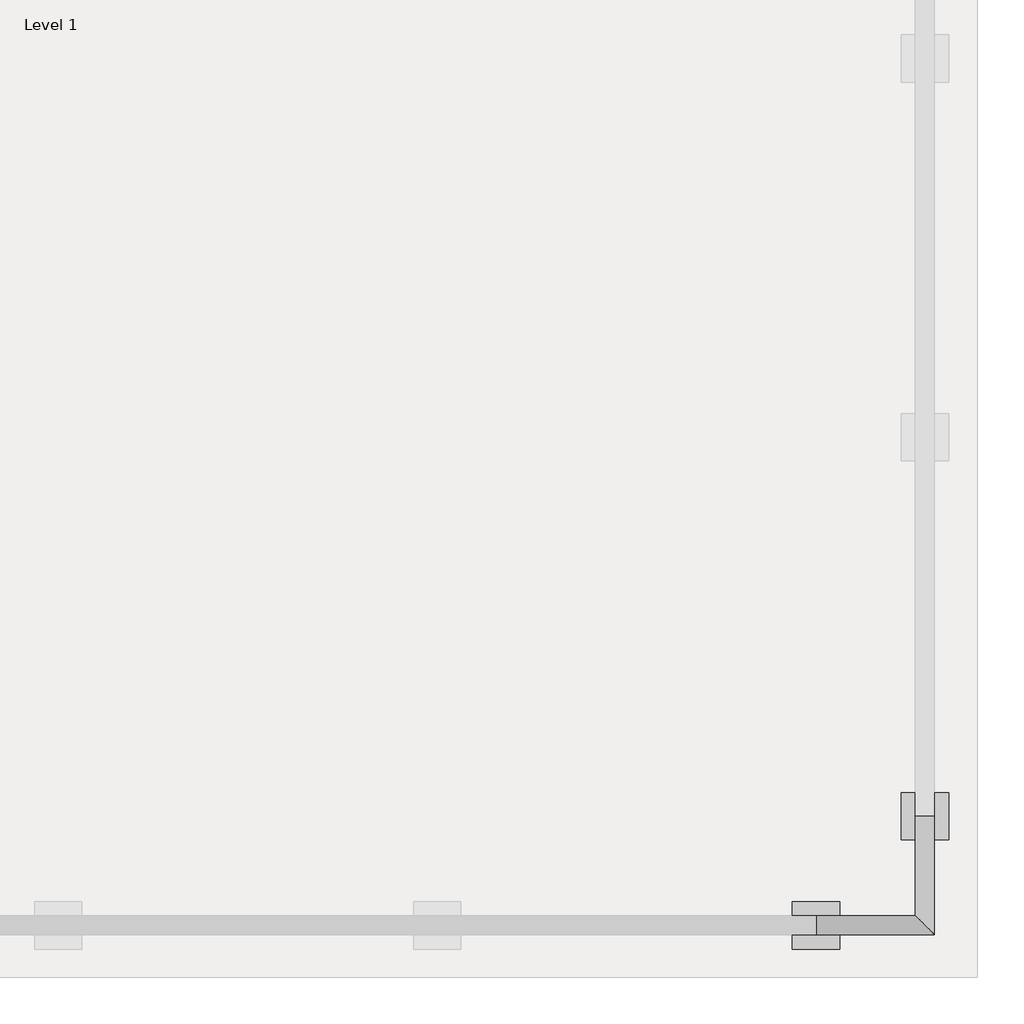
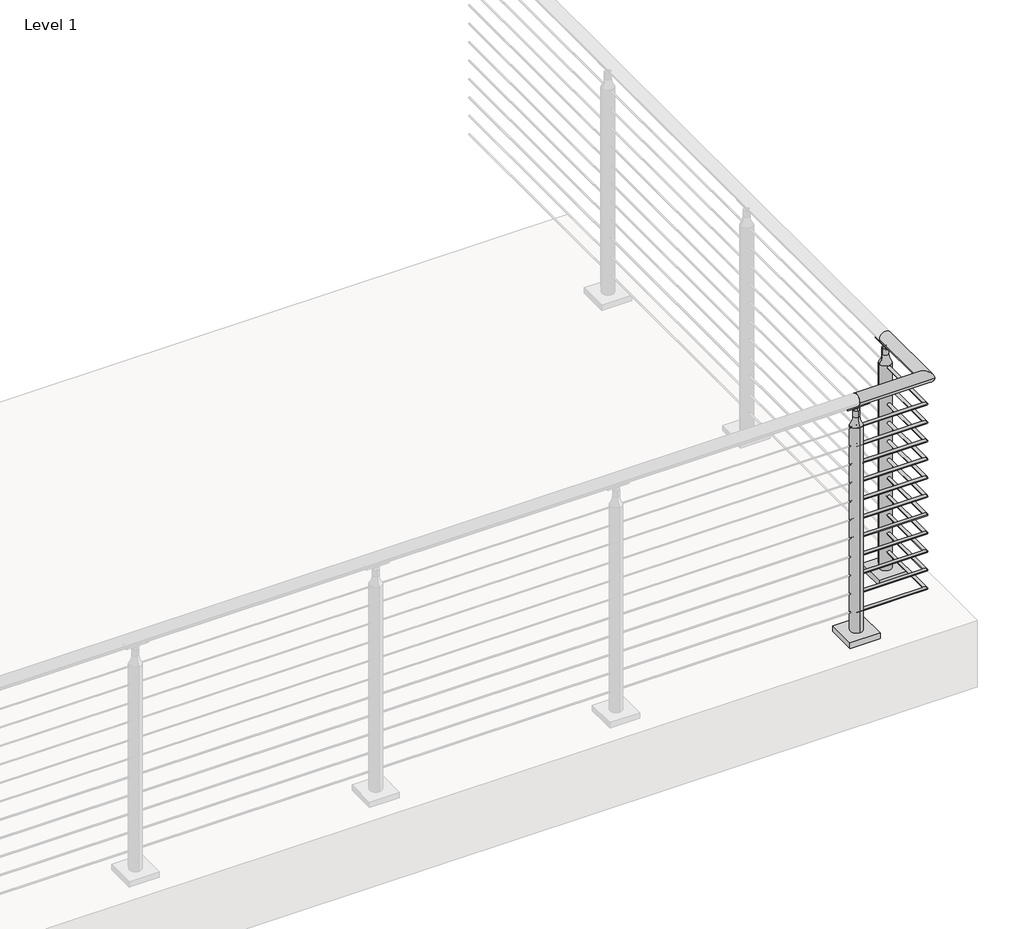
# One storey, part 11 of 21: 1 railing.
"""IFC4 building model written with IfcOpenShell, lengths in millimetres."""

from ifc_helpers import new_model, si_unit, point, frame, frame_2d, origin, origin_with_axes, place, context, project, spatial, polyline, circle_curve, ellipse_curve, trimmed, segment, composite_curve, outline, extrude, element, save
from ifc_brep_helpers import plane_surface, cylinder_surface, revolved_surface, advanced_brep

model = new_model("IFC4")

# Units and contexts
model_context = context("Model", 3, world=origin())
ifc_project = project(units=[si_unit("LENGTHUNIT", "METRE", prefix="MILLI")], contexts=[model_context])

# Site, building, storey
site = spatial("IfcSite", under=ifc_project)
building = spatial("IfcBuilding", under=site)
storey = spatial("IfcBuildingStorey", under=building, Name="Level 1", Elevation=0.0)

# Railing
placement = place(None, origin())
element("IfcRailing", 1, ObjectType="VIVA-CIRCA-Cable-Floor Mount-Corner", at=placement, inside=storey, context=model_context, shape_type="SolidModel", body=[
    advanced_brep(
    [(19311.7855247, -57070.1334719, 1054.1), (19311.7855247, -57019.3334719, 1054.1), (19629.2855247, -57070.1334719, 1054.1), (19578.4855247, -57019.3334719, 1054.1), (19629.2855247, -56752.6334719, 1054.1), (19578.4855247, -56752.6334719, 1054.1)],
    [
        (0, 1, circle_curve(frame((19311.7855247, -57044.7334719, 1054.1), z_axis=(-1.0, 0.0, 0.0), x_axis=(0.0, 1.0, 0.0)), 25.4)),
        (1, 0, circle_curve(frame((19311.7855247, -57044.7334719, 1054.1), z_axis=(-1.0, 0.0, 0.0), x_axis=(0.0, 1.0, 0.0)), 25.4)),
        (0, 2),
        (2, 3, ellipse_curve(frame((19603.8855247, -57044.7334719, 1054.1), z_axis=(-0.7071067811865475, -0.7071067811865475, 0.0), x_axis=(-0.7071067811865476, 0.7071067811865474, 0.0)), 35.9210245, 25.4)),
        (3, 1),
        (3, 2, ellipse_curve(frame((19603.8855247, -57044.7334719, 1054.1), z_axis=(-0.7071067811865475, -0.7071067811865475, 0.0), x_axis=(-0.7071067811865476, 0.7071067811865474, 0.0)), 35.9210245, 25.4)),
        (4, 5, circle_curve(frame((19603.8855247, -56752.6334719, 1054.1), z_axis=(0.0, 1.0, 0.0), x_axis=(-1.0, 0.0, 0.0)), 25.4)),
        (5, 4, circle_curve(frame((19603.8855247, -56752.6334719, 1054.1), z_axis=(0.0, 1.0, 0.0), x_axis=(-1.0, 0.0, 0.0)), 25.4)),
        (2, 4),
        (5, 3),
    ],
    [
        plane_surface(frame((19311.7855247, -57044.7334719, 1079.5), z_axis=(-1.0, 0.0, 0.0), x_axis=(0.0, 1.0, 0.0))),
        cylinder_surface(frame((19311.7855247, -57044.7334719, 1054.1), z_axis=(-1.0, 0.0, 0.0), x_axis=(0.0, 1.0, 0.0)), 25.4),
        plane_surface(frame((19603.8855247, -56752.6334719, 1079.5), z_axis=(0.0, 1.0, 0.0), x_axis=(0.0, 0.0, 1.0))),
        cylinder_surface(frame((19603.8855247, -57044.7334719, 1054.1), z_axis=(0.0, -1.0, 0.0), x_axis=(-1.0, 0.0, 0.0)), 25.4),
    ],
    [
        (0, [[1, 2]]),
        (1, [[-1, 3, 4, 5]]),
        (1, [[-2, -5, 6, -3]]),
        (2, [[7, 8]]),
        (3, [[-4, 9, -8, 10]]),
        (3, [[-6, -10, -7, -9]]),
    ],
),
    advanced_brep(
    [(19311.7855247, -57038.3834719, 933.45), (19311.7855247, -57051.0834719, 933.45), (19597.5355247, -57038.3834719, 933.45), (19610.2355247, -57051.0834719, 933.45), (19597.5355247, -56752.6334719, 933.45), (19610.2355247, -56752.6334719, 933.45)],
    [
        (0, 1, circle_curve(frame((19311.7855247, -57044.7334719, 933.45), z_axis=(-1.0, 0.0, 0.0), x_axis=(0.0, -1.0, 0.0)), 6.35)),
        (1, 0, circle_curve(frame((19311.7855247, -57044.7334719, 933.45), z_axis=(-1.0, 0.0, 0.0), x_axis=(0.0, -1.0, 0.0)), 6.35)),
        (0, 2),
        (2, 3, ellipse_curve(frame((19603.8855247, -57044.7334719, 933.45), z_axis=(-0.7071067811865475, -0.7071067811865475, 0.0), x_axis=(-0.7071067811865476, 0.7071067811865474, 0.0)), 8.9802561, 6.35)),
        (3, 1),
        (3, 2, ellipse_curve(frame((19603.8855247, -57044.7334719, 933.45), z_axis=(-0.7071067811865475, -0.7071067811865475, 0.0), x_axis=(-0.7071067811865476, 0.7071067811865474, 0.0)), 8.9802561, 6.35)),
        (4, 5, circle_curve(frame((19603.8855247, -56752.6334719, 933.45), z_axis=(0.0, 1.0, 0.0), x_axis=(1.0, 0.0, 0.0)), 6.35)),
        (5, 4, circle_curve(frame((19603.8855247, -56752.6334719, 933.45), z_axis=(0.0, 1.0, 0.0), x_axis=(1.0, 0.0, 0.0)), 6.35)),
        (2, 4),
        (5, 3),
    ],
    [
        plane_surface(frame((19311.7855247, -57044.7334719, 939.8), z_axis=(-1.0, 0.0, 0.0), x_axis=(0.0, 1.0, 0.0))),
        cylinder_surface(frame((19311.7855247, -57044.7334719, 933.45), z_axis=(-1.0, 0.0, 0.0), x_axis=(0.0, -1.0, 0.0)), 6.35),
        plane_surface(frame((19603.8855247, -56752.6334719, 939.8), z_axis=(0.0, 1.0, 0.0), x_axis=(0.0, 0.0, 1.0))),
        cylinder_surface(frame((19603.8855247, -57044.7334719, 933.45), z_axis=(0.0, -1.0, 0.0), x_axis=(1.0, 0.0, 0.0)), 6.35),
    ],
    [
        (0, [[1, 2]]),
        (1, [[-1, 3, 4, 5]]),
        (1, [[-2, -5, 6, -3]]),
        (2, [[7, 8]]),
        (3, [[-4, 9, -8, 10]]),
        (3, [[-6, -10, -7, -9]]),
    ],
),
    advanced_brep(
    [(19311.7855247, -57038.3834719, 850.9), (19311.7855247, -57051.0834719, 850.9), (19597.5355247, -57038.3834719, 850.9), (19610.2355247, -57051.0834719, 850.9), (19597.5355247, -56752.6334719, 850.9), (19610.2355247, -56752.6334719, 850.9)],
    [
        (0, 1, circle_curve(frame((19311.7855247, -57044.7334719, 850.9), z_axis=(-1.0, 0.0, 0.0), x_axis=(0.0, -1.0, 0.0)), 6.35)),
        (1, 0, circle_curve(frame((19311.7855247, -57044.7334719, 850.9), z_axis=(-1.0, 0.0, 0.0), x_axis=(0.0, -1.0, 0.0)), 6.35)),
        (0, 2),
        (2, 3, ellipse_curve(frame((19603.8855247, -57044.7334719, 850.9), z_axis=(-0.7071067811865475, -0.7071067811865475, 0.0), x_axis=(-0.7071067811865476, 0.7071067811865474, 0.0)), 8.9802561, 6.35)),
        (3, 1),
        (3, 2, ellipse_curve(frame((19603.8855247, -57044.7334719, 850.9), z_axis=(-0.7071067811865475, -0.7071067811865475, 0.0), x_axis=(-0.7071067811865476, 0.7071067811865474, 0.0)), 8.9802561, 6.35)),
        (4, 5, circle_curve(frame((19603.8855247, -56752.6334719, 850.9), z_axis=(0.0, 1.0, 0.0), x_axis=(1.0, 0.0, 0.0)), 6.35)),
        (5, 4, circle_curve(frame((19603.8855247, -56752.6334719, 850.9), z_axis=(0.0, 1.0, 0.0), x_axis=(1.0, 0.0, 0.0)), 6.35)),
        (2, 4),
        (5, 3),
    ],
    [
        plane_surface(frame((19311.7855247, -57044.7334719, 857.25), z_axis=(-1.0, 0.0, 0.0), x_axis=(0.0, 1.0, 0.0))),
        cylinder_surface(frame((19311.7855247, -57044.7334719, 850.9), z_axis=(-1.0, 0.0, 0.0), x_axis=(0.0, -1.0, 0.0)), 6.35),
        plane_surface(frame((19603.8855247, -56752.6334719, 857.25), z_axis=(0.0, 1.0, 0.0), x_axis=(0.0, 0.0, 1.0))),
        cylinder_surface(frame((19603.8855247, -57044.7334719, 850.9), z_axis=(0.0, -1.0, 0.0), x_axis=(1.0, 0.0, 0.0)), 6.35),
    ],
    [
        (0, [[1, 2]]),
        (1, [[-1, 3, 4, 5]]),
        (1, [[-2, -5, 6, -3]]),
        (2, [[7, 8]]),
        (3, [[-4, 9, -8, 10]]),
        (3, [[-6, -10, -7, -9]]),
    ],
),
    advanced_brep(
    [(19311.7855247, -57038.3834719, 768.35), (19311.7855247, -57051.0834719, 768.35), (19597.5355247, -57038.3834719, 768.35), (19610.2355247, -57051.0834719, 768.35), (19597.5355247, -56752.6334719, 768.35), (19610.2355247, -56752.6334719, 768.35)],
    [
        (0, 1, circle_curve(frame((19311.7855247, -57044.7334719, 768.35), z_axis=(-1.0, 0.0, 0.0), x_axis=(0.0, -1.0, 0.0)), 6.35)),
        (1, 0, circle_curve(frame((19311.7855247, -57044.7334719, 768.35), z_axis=(-1.0, 0.0, 0.0), x_axis=(0.0, -1.0, 0.0)), 6.35)),
        (0, 2),
        (2, 3, ellipse_curve(frame((19603.8855247, -57044.7334719, 768.35), z_axis=(-0.7071067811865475, -0.7071067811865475, 0.0), x_axis=(-0.7071067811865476, 0.7071067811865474, 0.0)), 8.9802561, 6.35)),
        (3, 1),
        (3, 2, ellipse_curve(frame((19603.8855247, -57044.7334719, 768.35), z_axis=(-0.7071067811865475, -0.7071067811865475, 0.0), x_axis=(-0.7071067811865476, 0.7071067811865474, 0.0)), 8.9802561, 6.35)),
        (4, 5, circle_curve(frame((19603.8855247, -56752.6334719, 768.35), z_axis=(0.0, 1.0, 0.0), x_axis=(1.0, 0.0, 0.0)), 6.35)),
        (5, 4, circle_curve(frame((19603.8855247, -56752.6334719, 768.35), z_axis=(0.0, 1.0, 0.0), x_axis=(1.0, 0.0, 0.0)), 6.35)),
        (2, 4),
        (5, 3),
    ],
    [
        plane_surface(frame((19311.7855247, -57044.7334719, 774.7), z_axis=(-1.0, 0.0, 0.0), x_axis=(0.0, 1.0, 0.0))),
        cylinder_surface(frame((19311.7855247, -57044.7334719, 768.35), z_axis=(-1.0, 0.0, 0.0), x_axis=(0.0, -1.0, 0.0)), 6.35),
        plane_surface(frame((19603.8855247, -56752.6334719, 774.7), z_axis=(0.0, 1.0, 0.0), x_axis=(0.0, 0.0, 1.0))),
        cylinder_surface(frame((19603.8855247, -57044.7334719, 768.35), z_axis=(0.0, -1.0, 0.0), x_axis=(1.0, 0.0, 0.0)), 6.35),
    ],
    [
        (0, [[1, 2]]),
        (1, [[-1, 3, 4, 5]]),
        (1, [[-2, -5, 6, -3]]),
        (2, [[7, 8]]),
        (3, [[-4, 9, -8, 10]]),
        (3, [[-6, -10, -7, -9]]),
    ],
),
    advanced_brep(
    [(19311.7855247, -57038.3834719, 685.8), (19311.7855247, -57051.0834719, 685.8), (19597.5355247, -57038.3834719, 685.8), (19610.2355247, -57051.0834719, 685.8), (19597.5355247, -56752.6334719, 685.8), (19610.2355247, -56752.6334719, 685.8)],
    [
        (0, 1, circle_curve(frame((19311.7855247, -57044.7334719, 685.8), z_axis=(-1.0, 0.0, 0.0), x_axis=(0.0, -1.0, 0.0)), 6.35)),
        (1, 0, circle_curve(frame((19311.7855247, -57044.7334719, 685.8), z_axis=(-1.0, 0.0, 0.0), x_axis=(0.0, -1.0, 0.0)), 6.35)),
        (0, 2),
        (2, 3, ellipse_curve(frame((19603.8855247, -57044.7334719, 685.8), z_axis=(-0.7071067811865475, -0.7071067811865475, 0.0), x_axis=(-0.7071067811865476, 0.7071067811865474, 0.0)), 8.9802561, 6.35)),
        (3, 1),
        (3, 2, ellipse_curve(frame((19603.8855247, -57044.7334719, 685.8), z_axis=(-0.7071067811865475, -0.7071067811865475, 0.0), x_axis=(-0.7071067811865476, 0.7071067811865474, 0.0)), 8.9802561, 6.35)),
        (4, 5, circle_curve(frame((19603.8855247, -56752.6334719, 685.8), z_axis=(0.0, 1.0, 0.0), x_axis=(1.0, 0.0, 0.0)), 6.35)),
        (5, 4, circle_curve(frame((19603.8855247, -56752.6334719, 685.8), z_axis=(0.0, 1.0, 0.0), x_axis=(1.0, 0.0, 0.0)), 6.35)),
        (2, 4),
        (5, 3),
    ],
    [
        plane_surface(frame((19311.7855247, -57044.7334719, 692.15), z_axis=(-1.0, 0.0, 0.0), x_axis=(0.0, 1.0, 0.0))),
        cylinder_surface(frame((19311.7855247, -57044.7334719, 685.8), z_axis=(-1.0, 0.0, 0.0), x_axis=(0.0, -1.0, 0.0)), 6.35),
        plane_surface(frame((19603.8855247, -56752.6334719, 692.15), z_axis=(0.0, 1.0, 0.0), x_axis=(0.0, 0.0, 1.0))),
        cylinder_surface(frame((19603.8855247, -57044.7334719, 685.8), z_axis=(0.0, -1.0, 0.0), x_axis=(1.0, 0.0, 0.0)), 6.35),
    ],
    [
        (0, [[1, 2]]),
        (1, [[-1, 3, 4, 5]]),
        (1, [[-2, -5, 6, -3]]),
        (2, [[7, 8]]),
        (3, [[-4, 9, -8, 10]]),
        (3, [[-6, -10, -7, -9]]),
    ],
),
    advanced_brep(
    [(19311.7855247, -57038.3834719, 603.25), (19311.7855247, -57051.0834719, 603.25), (19597.5355247, -57038.3834719, 603.25), (19610.2355247, -57051.0834719, 603.25), (19597.5355247, -56752.6334719, 603.25), (19610.2355247, -56752.6334719, 603.25)],
    [
        (0, 1, circle_curve(frame((19311.7855247, -57044.7334719, 603.25), z_axis=(-1.0, 0.0, 0.0), x_axis=(0.0, -1.0, 0.0)), 6.35)),
        (1, 0, circle_curve(frame((19311.7855247, -57044.7334719, 603.25), z_axis=(-1.0, 0.0, 0.0), x_axis=(0.0, -1.0, 0.0)), 6.35)),
        (0, 2),
        (2, 3, ellipse_curve(frame((19603.8855247, -57044.7334719, 603.25), z_axis=(-0.7071067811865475, -0.7071067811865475, 0.0), x_axis=(-0.7071067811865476, 0.7071067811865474, 0.0)), 8.9802561, 6.35)),
        (3, 1),
        (3, 2, ellipse_curve(frame((19603.8855247, -57044.7334719, 603.25), z_axis=(-0.7071067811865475, -0.7071067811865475, 0.0), x_axis=(-0.7071067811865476, 0.7071067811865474, 0.0)), 8.9802561, 6.35)),
        (4, 5, circle_curve(frame((19603.8855247, -56752.6334719, 603.25), z_axis=(0.0, 1.0, 0.0), x_axis=(1.0, 0.0, 0.0)), 6.35)),
        (5, 4, circle_curve(frame((19603.8855247, -56752.6334719, 603.25), z_axis=(0.0, 1.0, 0.0), x_axis=(1.0, 0.0, 0.0)), 6.35)),
        (2, 4),
        (5, 3),
    ],
    [
        plane_surface(frame((19311.7855247, -57044.7334719, 609.6), z_axis=(-1.0, 0.0, 0.0), x_axis=(0.0, 1.0, 0.0))),
        cylinder_surface(frame((19311.7855247, -57044.7334719, 603.25), z_axis=(-1.0, 0.0, 0.0), x_axis=(0.0, -1.0, 0.0)), 6.35),
        plane_surface(frame((19603.8855247, -56752.6334719, 609.6), z_axis=(0.0, 1.0, 0.0), x_axis=(0.0, 0.0, 1.0))),
        cylinder_surface(frame((19603.8855247, -57044.7334719, 603.25), z_axis=(0.0, -1.0, 0.0), x_axis=(1.0, 0.0, 0.0)), 6.35),
    ],
    [
        (0, [[1, 2]]),
        (1, [[-1, 3, 4, 5]]),
        (1, [[-2, -5, 6, -3]]),
        (2, [[7, 8]]),
        (3, [[-4, 9, -8, 10]]),
        (3, [[-6, -10, -7, -9]]),
    ],
),
    advanced_brep(
    [(19311.7855247, -57038.3834719, 520.7), (19311.7855247, -57051.0834719, 520.7), (19597.5355247, -57038.3834719, 520.7), (19610.2355247, -57051.0834719, 520.7), (19597.5355247, -56752.6334719, 520.7), (19610.2355247, -56752.6334719, 520.7)],
    [
        (0, 1, circle_curve(frame((19311.7855247, -57044.7334719, 520.7), z_axis=(-1.0, 0.0, 0.0), x_axis=(0.0, -1.0, 0.0)), 6.35)),
        (1, 0, circle_curve(frame((19311.7855247, -57044.7334719, 520.7), z_axis=(-1.0, 0.0, 0.0), x_axis=(0.0, -1.0, 0.0)), 6.35)),
        (0, 2),
        (2, 3, ellipse_curve(frame((19603.8855247, -57044.7334719, 520.7), z_axis=(-0.7071067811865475, -0.7071067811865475, 0.0), x_axis=(-0.7071067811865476, 0.7071067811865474, 0.0)), 8.9802561, 6.35)),
        (3, 1),
        (3, 2, ellipse_curve(frame((19603.8855247, -57044.7334719, 520.7), z_axis=(-0.7071067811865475, -0.7071067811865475, 0.0), x_axis=(-0.7071067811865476, 0.7071067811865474, 0.0)), 8.9802561, 6.35)),
        (4, 5, circle_curve(frame((19603.8855247, -56752.6334719, 520.7), z_axis=(0.0, 1.0, 0.0), x_axis=(1.0, 0.0, 0.0)), 6.35)),
        (5, 4, circle_curve(frame((19603.8855247, -56752.6334719, 520.7), z_axis=(0.0, 1.0, 0.0), x_axis=(1.0, 0.0, 0.0)), 6.35)),
        (2, 4),
        (5, 3),
    ],
    [
        plane_surface(frame((19311.7855247, -57044.7334719, 527.05), z_axis=(-1.0, 0.0, 0.0), x_axis=(0.0, 1.0, 0.0))),
        cylinder_surface(frame((19311.7855247, -57044.7334719, 520.7), z_axis=(-1.0, 0.0, 0.0), x_axis=(0.0, -1.0, 0.0)), 6.35),
        plane_surface(frame((19603.8855247, -56752.6334719, 527.05), z_axis=(0.0, 1.0, 0.0), x_axis=(0.0, 0.0, 1.0))),
        cylinder_surface(frame((19603.8855247, -57044.7334719, 520.7), z_axis=(0.0, -1.0, 0.0), x_axis=(1.0, 0.0, 0.0)), 6.35),
    ],
    [
        (0, [[1, 2]]),
        (1, [[-1, 3, 4, 5]]),
        (1, [[-2, -5, 6, -3]]),
        (2, [[7, 8]]),
        (3, [[-4, 9, -8, 10]]),
        (3, [[-6, -10, -7, -9]]),
    ],
),
    advanced_brep(
    [(19311.7855247, -57038.3834719, 438.15), (19311.7855247, -57051.0834719, 438.15), (19597.5355247, -57038.3834719, 438.15), (19610.2355247, -57051.0834719, 438.15), (19597.5355247, -56752.6334719, 438.15), (19610.2355247, -56752.6334719, 438.15)],
    [
        (0, 1, circle_curve(frame((19311.7855247, -57044.7334719, 438.15), z_axis=(-1.0, 0.0, 0.0), x_axis=(0.0, -1.0, 0.0)), 6.35)),
        (1, 0, circle_curve(frame((19311.7855247, -57044.7334719, 438.15), z_axis=(-1.0, 0.0, 0.0), x_axis=(0.0, -1.0, 0.0)), 6.35)),
        (0, 2),
        (2, 3, ellipse_curve(frame((19603.8855247, -57044.7334719, 438.15), z_axis=(-0.7071067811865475, -0.7071067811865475, 0.0), x_axis=(-0.7071067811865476, 0.7071067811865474, 0.0)), 8.9802561, 6.35)),
        (3, 1),
        (3, 2, ellipse_curve(frame((19603.8855247, -57044.7334719, 438.15), z_axis=(-0.7071067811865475, -0.7071067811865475, 0.0), x_axis=(-0.7071067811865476, 0.7071067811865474, 0.0)), 8.9802561, 6.35)),
        (4, 5, circle_curve(frame((19603.8855247, -56752.6334719, 438.15), z_axis=(0.0, 1.0, 0.0), x_axis=(1.0, 0.0, 0.0)), 6.35)),
        (5, 4, circle_curve(frame((19603.8855247, -56752.6334719, 438.15), z_axis=(0.0, 1.0, 0.0), x_axis=(1.0, 0.0, 0.0)), 6.35)),
        (2, 4),
        (5, 3),
    ],
    [
        plane_surface(frame((19311.7855247, -57044.7334719, 444.5), z_axis=(-1.0, 0.0, 0.0), x_axis=(0.0, 1.0, 0.0))),
        cylinder_surface(frame((19311.7855247, -57044.7334719, 438.15), z_axis=(-1.0, 0.0, 0.0), x_axis=(0.0, -1.0, 0.0)), 6.35),
        plane_surface(frame((19603.8855247, -56752.6334719, 444.5), z_axis=(0.0, 1.0, 0.0), x_axis=(0.0, 0.0, 1.0))),
        cylinder_surface(frame((19603.8855247, -57044.7334719, 438.15), z_axis=(0.0, -1.0, 0.0), x_axis=(1.0, 0.0, 0.0)), 6.35),
    ],
    [
        (0, [[1, 2]]),
        (1, [[-1, 3, 4, 5]]),
        (1, [[-2, -5, 6, -3]]),
        (2, [[7, 8]]),
        (3, [[-4, 9, -8, 10]]),
        (3, [[-6, -10, -7, -9]]),
    ],
),
    advanced_brep(
    [(19311.7855247, -57038.3834719, 355.6), (19311.7855247, -57051.0834719, 355.6), (19597.5355247, -57038.3834719, 355.6), (19610.2355247, -57051.0834719, 355.6), (19597.5355247, -56752.6334719, 355.6), (19610.2355247, -56752.6334719, 355.6)],
    [
        (0, 1, circle_curve(frame((19311.7855247, -57044.7334719, 355.6), z_axis=(-1.0, 0.0, 0.0), x_axis=(0.0, -1.0, 0.0)), 6.35)),
        (1, 0, circle_curve(frame((19311.7855247, -57044.7334719, 355.6), z_axis=(-1.0, 0.0, 0.0), x_axis=(0.0, -1.0, 0.0)), 6.35)),
        (0, 2),
        (2, 3, ellipse_curve(frame((19603.8855247, -57044.7334719, 355.6), z_axis=(-0.7071067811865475, -0.7071067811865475, 0.0), x_axis=(-0.7071067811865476, 0.7071067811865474, 0.0)), 8.9802561, 6.35)),
        (3, 1),
        (3, 2, ellipse_curve(frame((19603.8855247, -57044.7334719, 355.6), z_axis=(-0.7071067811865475, -0.7071067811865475, 0.0), x_axis=(-0.7071067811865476, 0.7071067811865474, 0.0)), 8.9802561, 6.35)),
        (4, 5, circle_curve(frame((19603.8855247, -56752.6334719, 355.6), z_axis=(0.0, 1.0, 0.0), x_axis=(1.0, 0.0, 0.0)), 6.35)),
        (5, 4, circle_curve(frame((19603.8855247, -56752.6334719, 355.6), z_axis=(0.0, 1.0, 0.0), x_axis=(1.0, 0.0, 0.0)), 6.35)),
        (2, 4),
        (5, 3),
    ],
    [
        plane_surface(frame((19311.7855247, -57044.7334719, 361.95), z_axis=(-1.0, 0.0, 0.0), x_axis=(0.0, 1.0, 0.0))),
        cylinder_surface(frame((19311.7855247, -57044.7334719, 355.6), z_axis=(-1.0, 0.0, 0.0), x_axis=(0.0, -1.0, 0.0)), 6.35),
        plane_surface(frame((19603.8855247, -56752.6334719, 361.95), z_axis=(0.0, 1.0, 0.0), x_axis=(0.0, 0.0, 1.0))),
        cylinder_surface(frame((19603.8855247, -57044.7334719, 355.6), z_axis=(0.0, -1.0, 0.0), x_axis=(1.0, 0.0, 0.0)), 6.35),
    ],
    [
        (0, [[1, 2]]),
        (1, [[-1, 3, 4, 5]]),
        (1, [[-2, -5, 6, -3]]),
        (2, [[7, 8]]),
        (3, [[-4, 9, -8, 10]]),
        (3, [[-6, -10, -7, -9]]),
    ],
),
    advanced_brep(
    [(19311.7855247, -57038.3834719, 273.05), (19311.7855247, -57051.0834719, 273.05), (19597.5355247, -57038.3834719, 273.05), (19610.2355247, -57051.0834719, 273.05), (19597.5355247, -56752.6334719, 273.05), (19610.2355247, -56752.6334719, 273.05)],
    [
        (0, 1, circle_curve(frame((19311.7855247, -57044.7334719, 273.05), z_axis=(-1.0, 0.0, 0.0), x_axis=(0.0, -1.0, 0.0)), 6.35)),
        (1, 0, circle_curve(frame((19311.7855247, -57044.7334719, 273.05), z_axis=(-1.0, 0.0, 0.0), x_axis=(0.0, -1.0, 0.0)), 6.35)),
        (0, 2),
        (2, 3, ellipse_curve(frame((19603.8855247, -57044.7334719, 273.05), z_axis=(-0.7071067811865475, -0.7071067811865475, 0.0), x_axis=(-0.7071067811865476, 0.7071067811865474, 0.0)), 8.9802561, 6.35)),
        (3, 1),
        (3, 2, ellipse_curve(frame((19603.8855247, -57044.7334719, 273.05), z_axis=(-0.7071067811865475, -0.7071067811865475, 0.0), x_axis=(-0.7071067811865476, 0.7071067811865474, 0.0)), 8.9802561, 6.35)),
        (4, 5, circle_curve(frame((19603.8855247, -56752.6334719, 273.05), z_axis=(0.0, 1.0, 0.0), x_axis=(1.0, 0.0, 0.0)), 6.35)),
        (5, 4, circle_curve(frame((19603.8855247, -56752.6334719, 273.05), z_axis=(0.0, 1.0, 0.0), x_axis=(1.0, 0.0, 0.0)), 6.35)),
        (2, 4),
        (5, 3),
    ],
    [
        plane_surface(frame((19311.7855247, -57044.7334719, 279.4), z_axis=(-1.0, 0.0, 0.0), x_axis=(0.0, 1.0, 0.0))),
        cylinder_surface(frame((19311.7855247, -57044.7334719, 273.05), z_axis=(-1.0, 0.0, 0.0), x_axis=(0.0, -1.0, 0.0)), 6.35),
        plane_surface(frame((19603.8855247, -56752.6334719, 279.4), z_axis=(0.0, 1.0, 0.0), x_axis=(0.0, 0.0, 1.0))),
        cylinder_surface(frame((19603.8855247, -57044.7334719, 273.05), z_axis=(0.0, -1.0, 0.0), x_axis=(1.0, 0.0, 0.0)), 6.35),
    ],
    [
        (0, [[1, 2]]),
        (1, [[-1, 3, 4, 5]]),
        (1, [[-2, -5, 6, -3]]),
        (2, [[7, 8]]),
        (3, [[-4, 9, -8, 10]]),
        (3, [[-6, -10, -7, -9]]),
    ],
),
    advanced_brep(
    [(19311.7855247, -57038.3834719, 190.5), (19311.7855247, -57051.0834719, 190.5), (19597.5355247, -57038.3834719, 190.5), (19610.2355247, -57051.0834719, 190.5), (19597.5355247, -56752.6334719, 190.5), (19610.2355247, -56752.6334719, 190.5)],
    [
        (0, 1, circle_curve(frame((19311.7855247, -57044.7334719, 190.5), z_axis=(-1.0, 0.0, 0.0), x_axis=(0.0, -1.0, 0.0)), 6.35)),
        (1, 0, circle_curve(frame((19311.7855247, -57044.7334719, 190.5), z_axis=(-1.0, 0.0, 0.0), x_axis=(0.0, -1.0, 0.0)), 6.35)),
        (0, 2),
        (2, 3, ellipse_curve(frame((19603.8855247, -57044.7334719, 190.5), z_axis=(-0.7071067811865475, -0.7071067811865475, 0.0), x_axis=(-0.7071067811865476, 0.7071067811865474, 0.0)), 8.9802561, 6.35)),
        (3, 1),
        (3, 2, ellipse_curve(frame((19603.8855247, -57044.7334719, 190.5), z_axis=(-0.7071067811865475, -0.7071067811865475, 0.0), x_axis=(-0.7071067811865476, 0.7071067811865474, 0.0)), 8.9802561, 6.35)),
        (4, 5, circle_curve(frame((19603.8855247, -56752.6334719, 190.5), z_axis=(0.0, 1.0, 0.0), x_axis=(1.0, 0.0, 0.0)), 6.35)),
        (5, 4, circle_curve(frame((19603.8855247, -56752.6334719, 190.5), z_axis=(0.0, 1.0, 0.0), x_axis=(1.0, 0.0, 0.0)), 6.35)),
        (2, 4),
        (5, 3),
    ],
    [
        plane_surface(frame((19311.7855247, -57044.7334719, 196.85), z_axis=(-1.0, 0.0, 0.0), x_axis=(0.0, 1.0, 0.0))),
        cylinder_surface(frame((19311.7855247, -57044.7334719, 190.5), z_axis=(-1.0, 0.0, 0.0), x_axis=(0.0, -1.0, 0.0)), 6.35),
        plane_surface(frame((19603.8855247, -56752.6334719, 196.85), z_axis=(0.0, 1.0, 0.0), x_axis=(0.0, 0.0, 1.0))),
        cylinder_surface(frame((19603.8855247, -57044.7334719, 190.5), z_axis=(0.0, -1.0, 0.0), x_axis=(1.0, 0.0, 0.0)), 6.35),
    ],
    [
        (0, [[1, 2]]),
        (1, [[-1, 3, 4, 5]]),
        (1, [[-2, -5, 6, -3]]),
        (2, [[7, 8]]),
        (3, [[-4, 9, -8, 10]]),
        (3, [[-6, -10, -7, -9]]),
    ],
),
    advanced_brep(
    [(19311.7855247, -57038.3834719, 107.95), (19311.7855247, -57051.0834719, 107.95), (19597.5355247, -57038.3834719, 107.95), (19610.2355247, -57051.0834719, 107.95), (19597.5355247, -56752.6334719, 107.95), (19610.2355247, -56752.6334719, 107.95)],
    [
        (0, 1, circle_curve(frame((19311.7855247, -57044.7334719, 107.95), z_axis=(-1.0, 0.0, 0.0), x_axis=(0.0, -1.0, 0.0)), 6.35)),
        (1, 0, circle_curve(frame((19311.7855247, -57044.7334719, 107.95), z_axis=(-1.0, 0.0, 0.0), x_axis=(0.0, -1.0, 0.0)), 6.35)),
        (0, 2),
        (2, 3, ellipse_curve(frame((19603.8855247, -57044.7334719, 107.95), z_axis=(-0.7071067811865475, -0.7071067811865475, 0.0), x_axis=(-0.7071067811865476, 0.7071067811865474, 0.0)), 8.9802561, 6.35)),
        (3, 1),
        (3, 2, ellipse_curve(frame((19603.8855247, -57044.7334719, 107.95), z_axis=(-0.7071067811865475, -0.7071067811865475, 0.0), x_axis=(-0.7071067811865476, 0.7071067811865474, 0.0)), 8.9802561, 6.35)),
        (4, 5, circle_curve(frame((19603.8855247, -56752.6334719, 107.95), z_axis=(0.0, 1.0, 0.0), x_axis=(1.0, 0.0, 0.0)), 6.35)),
        (5, 4, circle_curve(frame((19603.8855247, -56752.6334719, 107.95), z_axis=(0.0, 1.0, 0.0), x_axis=(1.0, 0.0, 0.0)), 6.35)),
        (2, 4),
        (5, 3),
    ],
    [
        plane_surface(frame((19311.7855247, -57044.7334719, 114.3), z_axis=(-1.0, 0.0, 0.0), x_axis=(0.0, 1.0, 0.0))),
        cylinder_surface(frame((19311.7855247, -57044.7334719, 107.95), z_axis=(-1.0, 0.0, 0.0), x_axis=(0.0, -1.0, 0.0)), 6.35),
        plane_surface(frame((19603.8855247, -56752.6334719, 114.3), z_axis=(0.0, 1.0, 0.0), x_axis=(0.0, 0.0, 1.0))),
        cylinder_surface(frame((19603.8855247, -57044.7334719, 107.95), z_axis=(0.0, -1.0, 0.0), x_axis=(1.0, 0.0, 0.0)), 6.35),
    ],
    [
        (0, [[1, 2]]),
        (1, [[-1, 3, 4, 5]]),
        (1, [[-2, -5, 6, -3]]),
        (2, [[7, 8]]),
        (3, [[-4, 9, -8, 10]]),
        (3, [[-6, -10, -7, -9]]),
    ],
),
    extrude(outline(composite_curve([segment(trimmed(circle_curve(frame_2d((1055.4254922, 19603.7887963)), 25.4345159), [point((1033.3106679, 19616.3525992))], [point((1033.2157471, 19591.3935626))], True, "CARTESIAN"), True, "CONTINUOUS"), segment(trimmed(circle_curve(frame_2d((1030.7132623, 19590.1489094)), 2.7949225), [point((1033.2157471, 19591.3935626))], [point((1028.3406769, 19588.6716044))], False, "CARTESIAN"), True, "CONTINUOUS"), segment(trimmed(circle_curve(frame_2d((1056.1881188, 19603.9222594)), 31.75), [point((1028.3406769, 19588.6716044))], [point((1028.9214354, 19620.1884966))], False, "CARTESIAN"), True, "CONTINUOUS"), segment(trimmed(circle_curve(frame_2d((1030.7923545, 19617.9001569)), 2.9558141), [point((1028.9214354, 19620.1884966))], [point((1033.3106679, 19616.3525992))], False, "CARTESIAN"), True, "CONTINUOUS")], self_intersect=False)), frame((0.0, -56797.4739969, 0.0), z_axis=(0.0, 1.0, 0.0), x_axis=(0.0, 0.0, 1.0)), (0.0, 0.0, 1.0), 90.4748),
    extrude(outline(composite_curve([segment(trimmed(circle_curve(frame_2d((-56725.168682, 1010.282776)), 14.3679149), [point((-56725.168682, 1024.6506908))], [point((-56739.5365969, 1010.282776))], True, "CARTESIAN"), True, "CONTINUOUS"), segment(trimmed(circle_curve(frame_2d((-56752.2365969, 1010.282776)), 12.7), [point((-56739.5365969, 1010.282776))], [point((-56764.9365969, 1010.282776))], False, "CARTESIAN"), True, "CONTINUOUS"), segment(trimmed(circle_curve(frame_2d((-56779.3045117, 1010.282776)), 14.3679149), [point((-56764.9365969, 1010.282776))], [point((-56779.3045117, 1024.6506908))], True, "CARTESIAN"), True, "CONTINUOUS"), segment(polyline([(-56779.3045117, 1024.6506908), (-56725.168682, 1024.6506908)]), True, "CONTINUOUS")], self_intersect=False)), frame((19601.3455247, 0.0, 0.0), z_axis=(1.0, 0.0, 0.0), x_axis=(0.0, 1.0, 0.0)), (0.0, 0.0, 1.0), 5.08),
    extrude(outline(polyline([(19667.3855247, -56815.7365969), (19540.3855247, -56815.7365969), (19540.3855247, -56688.7365969), (19667.3855247, -56688.7365969), (19667.3855247, -56815.7365969)])), origin_with_axes(), (0.0, 0.0, 1.0), 25.4),
    advanced_brep(
    [(19629.2849225, -56752.2365969, 941.1347854), (19578.4861269, -56752.2365969, 941.1347854), (19578.4861269, -56752.2365969, 25.4), (19629.2849225, -56752.2365969, 25.4), (19616.6234932, -56752.2365969, 979.3486202), (19591.1475562, -56752.2365969, 979.3486202), (19616.6234932, -56752.2365969, 1008.5779599), (19591.1475562, -56752.2365969, 1008.5779599), (19603.8855247, -56752.2365969, 1015.238668), (19603.8855247, -56752.2365969, 25.4)],
    [
        (0, 1, circle_curve(frame((19603.8855247, -56752.2365969, 941.1347854), z_axis=(0.0, 0.0, -1.0), x_axis=(-1.0, 0.0, 0.0)), 25.3993978)),
        (1, 2),
        (2, 3, circle_curve(frame((19603.8855247, -56752.2365969, 25.4), z_axis=(0.0, 0.0, 1.0), x_axis=(-1.0, 0.0, 0.0)), 25.3993978)),
        (3, 0),
        (1, 0, circle_curve(frame((19603.8855247, -56752.2365969, 941.1347854), z_axis=(0.0, 0.0, -1.0), x_axis=(-1.0, 0.0, 0.0)), 25.3993978)),
        (3, 2, circle_curve(frame((19603.8855247, -56752.2365969, 25.4), z_axis=(0.0, 0.0, 1.0), x_axis=(-1.0, 0.0, 0.0)), 25.3993978)),
        (4, 5, circle_curve(frame((19603.8855247, -56752.2365969, 979.3486202), z_axis=(0.0, 0.0, -1.0), x_axis=(-1.0, 0.0, 0.0)), 12.7379685)),
        (5, 1, circle_curve(frame((19527.1496879, -56752.2365969, 979.3486202), z_axis=(0.0, 1.0, 0.0), x_axis=(-1.0, 0.0, 0.0)), 63.9978683)),
        (0, 4, circle_curve(frame((19680.6213615, -56752.2365969, 979.3486202), z_axis=(0.0, 1.0, 0.0), x_axis=(1.0, 0.0, 0.0)), 63.9978683)),
        (5, 4, circle_curve(frame((19603.8855247, -56752.2365969, 979.3486202), z_axis=(0.0, 0.0, -1.0), x_axis=(-1.0, 0.0, 0.0)), 12.7379685)),
        (6, 7, circle_curve(frame((19603.8855247, -56752.2365969, 1008.5779599), z_axis=(0.0, 0.0, -1.0), x_axis=(-1.0, 0.0, 0.0)), 12.7379685)),
        (7, 5),
        (4, 6),
        (7, 6, circle_curve(frame((19603.8855247, -56752.2365969, 1008.5779599), z_axis=(0.0, 0.0, -1.0), x_axis=(-1.0, 0.0, 0.0)), 12.7379685)),
        (8, 7, circle_curve(frame((19603.8855247, -56752.2365969, 999.7282394), z_axis=(0.0, -1.0, 0.0), x_axis=(-1.0, 0.0, 0.0)), 15.5104286)),
        (6, 8, circle_curve(frame((19603.8855247, -56752.2365969, 999.7282394), z_axis=(0.0, -1.0, 0.0), x_axis=(1.0, 0.0, 0.0)), 15.5104286)),
        (2, 9),
        (9, 3),
    ],
    [
        cylinder_surface(frame((19603.8855247, -56752.2365969, 1104.9), z_axis=(0.0, 0.0, 1.0), x_axis=(-1.0, 0.0, 0.0)), 25.3993978),
        revolved_surface(trimmed(ellipse_curve(frame((19527.1496879, -56752.2365969, 979.3486202), z_axis=(0.0, -1.0, 0.0), x_axis=(-1.0, 0.0, 0.0)), 63.9978683, 63.9978683), [point((19578.4861269, -56752.2365969, 941.1347854))], [point((19591.1475562, -56752.2365969, 979.3486202))], True, "CARTESIAN"), (19603.8855247, -56752.2365969, 1104.9), (0.0, 0.0, 1.0)),
        cylinder_surface(frame((19603.8855247, -56752.2365969, 1104.9), z_axis=(0.0, 0.0, 1.0), x_axis=(-1.0, 0.0, 0.0)), 12.7379685),
        revolved_surface(trimmed(ellipse_curve(frame((19603.8855247, -56752.2365969, 999.7282394), z_axis=(0.0, 1.0, 0.0), x_axis=(-1.0, 0.0, 0.0)), 15.5104286, 15.5104286), [point((19591.1475562, -56752.2365969, 1008.5779599))], [point((19603.8855247, -56752.2365969, 1015.238668))], True, "CARTESIAN"), (19603.8855247, -56752.2365969, 1104.9), (0.0, 0.0, 1.0)),
        plane_surface(frame((19603.8855247, -56752.2365969, 25.4), z_axis=(0.0, 0.0, -1.0), x_axis=(-1.0, 0.0, 0.0))),
    ],
    [
        (0, [[1, 2, 3, 4]]),
        (0, [[5, -4, 6, -2]]),
        (1, [[7, 8, -1, 9]]),
        (1, [[10, -9, -5, -8]]),
        (2, [[11, 12, -7, 13]]),
        (2, [[14, -13, -10, -12]]),
        (3, [[15, -11, 16]]),
        (3, [[-16, -14, -15]]),
        (4, [[-3, 17, 18]]),
        (4, [[-6, -18, -17]]),
    ],
),
    extrude(outline(composite_curve([segment(trimmed(circle_curve(frame_2d((-57044.6367435, 1055.4254922)), 25.4345159), [point((-57057.2005464, 1033.3106679))], [point((-57032.2415097, 1033.2157471))], True, "CARTESIAN"), True, "CONTINUOUS"), segment(trimmed(circle_curve(frame_2d((-57030.9968566, 1030.7132623)), 2.7949225), [point((-57032.2415097, 1033.2157471))], [point((-57029.5195515, 1028.3406769))], False, "CARTESIAN"), True, "CONTINUOUS"), segment(trimmed(circle_curve(frame_2d((-57044.7702066, 1056.1881188)), 31.75), [point((-57029.5195515, 1028.3406769))], [point((-57061.0364438, 1028.9214354))], False, "CARTESIAN"), True, "CONTINUOUS"), segment(trimmed(circle_curve(frame_2d((-57058.748104, 1030.7923545)), 2.9558141), [point((-57061.0364438, 1028.9214354))], [point((-57057.2005464, 1033.3106679))], False, "CARTESIAN"), True, "CONTINUOUS")], self_intersect=False)), frame((19266.9449997, 0.0, 0.0), z_axis=(1.0, 0.0, 0.0), x_axis=(0.0, 1.0, 0.0)), (0.0, 0.0, 1.0), 90.4748),
    extrude(outline(composite_curve([segment(polyline([(1024.6506908, 19339.2503146), (1024.6506908, 19285.1144848)]), True, "CONTINUOUS"), segment(trimmed(circle_curve(frame_2d((1010.282776, 19285.1144848)), 14.3679149), [point((1024.6506908, 19285.1144848))], [point((1010.282776, 19299.4823997))], True, "CARTESIAN"), True, "CONTINUOUS"), segment(trimmed(circle_curve(frame_2d((1010.282776, 19312.1823997)), 12.7), [point((1010.282776, 19299.4823997))], [point((1010.282776, 19324.8823997))], False, "CARTESIAN"), True, "CONTINUOUS"), segment(trimmed(circle_curve(frame_2d((1010.282776, 19339.2503146)), 14.3679149), [point((1010.282776, 19324.8823997))], [point((1024.6506908, 19339.2503146))], True, "CARTESIAN"), True, "CONTINUOUS")], self_intersect=False)), frame((0.0, -57047.2734719, 0.0), z_axis=(0.0, 1.0, 0.0), x_axis=(0.0, 0.0, 1.0)), (0.0, 0.0, 1.0), 5.08),
    extrude(outline(polyline([(19248.6823997, -57108.2334719), (19248.6823997, -56981.2334719), (19375.6823997, -56981.2334719), (19375.6823997, -57108.2334719), (19248.6823997, -57108.2334719)])), origin_with_axes(), (0.0, 0.0, 1.0), 25.4),
    advanced_brep(
    [(19312.1823997, -57070.1328697, 941.1347854), (19312.1823997, -57019.3340741, 941.1347854), (19312.1823997, -57019.3340741, 25.4), (19312.1823997, -57070.1328697, 25.4), (19312.1823997, -57057.4714404, 979.3486202), (19312.1823997, -57031.9955033, 979.3486202), (19312.1823997, -57057.4714404, 1008.5779599), (19312.1823997, -57031.9955033, 1008.5779599), (19312.1823997, -57044.7334719, 1015.238668), (19312.1823997, -57044.7334719, 25.4)],
    [
        (0, 1, circle_curve(frame((19312.1823997, -57044.7334719, 941.1347854), z_axis=(0.0, 0.0, -1.0), x_axis=(0.0, 1.0, 0.0)), 25.3993978)),
        (1, 2),
        (2, 3, circle_curve(frame((19312.1823997, -57044.7334719, 25.4), z_axis=(0.0, 0.0, 1.0), x_axis=(0.0, 1.0, 0.0)), 25.3993978)),
        (3, 0),
        (1, 0, circle_curve(frame((19312.1823997, -57044.7334719, 941.1347854), z_axis=(0.0, 0.0, -1.0), x_axis=(0.0, 1.0, 0.0)), 25.3993978)),
        (3, 2, circle_curve(frame((19312.1823997, -57044.7334719, 25.4), z_axis=(0.0, 0.0, 1.0), x_axis=(0.0, 1.0, 0.0)), 25.3993978)),
        (4, 5, circle_curve(frame((19312.1823997, -57044.7334719, 979.3486202), z_axis=(0.0, 0.0, -1.0), x_axis=(0.0, 1.0, 0.0)), 12.7379685)),
        (5, 1, circle_curve(frame((19312.1823997, -56967.997635, 979.3486202), z_axis=(1.0, 0.0, 0.0), x_axis=(0.0, 1.0, 0.0)), 63.9978683)),
        (0, 4, circle_curve(frame((19312.1823997, -57121.4693087, 979.3486202), z_axis=(1.0, 0.0, 0.0), x_axis=(0.0, -1.0, 0.0)), 63.9978683)),
        (5, 4, circle_curve(frame((19312.1823997, -57044.7334719, 979.3486202), z_axis=(0.0, 0.0, -1.0), x_axis=(0.0, 1.0, 0.0)), 12.7379685)),
        (6, 7, circle_curve(frame((19312.1823997, -57044.7334719, 1008.5779599), z_axis=(0.0, 0.0, -1.0), x_axis=(0.0, 1.0, 0.0)), 12.7379685)),
        (7, 5),
        (4, 6),
        (7, 6, circle_curve(frame((19312.1823997, -57044.7334719, 1008.5779599), z_axis=(0.0, 0.0, -1.0), x_axis=(0.0, 1.0, 0.0)), 12.7379685)),
        (8, 7, circle_curve(frame((19312.1823997, -57044.7334719, 999.7282394), z_axis=(-1.0, 0.0, 0.0), x_axis=(0.0, 1.0, 0.0)), 15.5104286)),
        (6, 8, circle_curve(frame((19312.1823997, -57044.7334719, 999.7282394), z_axis=(-1.0, 0.0, 0.0), x_axis=(0.0, -1.0, 0.0)), 15.5104286)),
        (2, 9),
        (9, 3),
    ],
    [
        cylinder_surface(frame((19312.1823997, -57044.7334719, 1104.9), z_axis=(0.0, 0.0, 1.0), x_axis=(0.0, 1.0, 0.0)), 25.3993978),
        revolved_surface(trimmed(ellipse_curve(frame((19312.1823997, -56967.997635, 979.3486202), z_axis=(-1.0, 0.0, 0.0), x_axis=(0.0, 1.0, 0.0)), 63.9978683, 63.9978683), [point((19312.1823997, -57019.3340741, 941.1347854))], [point((19312.1823997, -57031.9955033, 979.3486202))], True, "CARTESIAN"), (19312.1823997, -57044.7334719, 1104.9), (0.0, 0.0, 1.0)),
        cylinder_surface(frame((19312.1823997, -57044.7334719, 1104.9), z_axis=(0.0, 0.0, 1.0), x_axis=(0.0, 1.0, 0.0)), 12.7379685),
        revolved_surface(trimmed(ellipse_curve(frame((19312.1823997, -57044.7334719, 999.7282394), z_axis=(1.0, 0.0, 0.0), x_axis=(0.0, 1.0, 0.0)), 15.5104286, 15.5104286), [point((19312.1823997, -57031.9955033, 1008.5779599))], [point((19312.1823997, -57044.7334719, 1015.238668))], True, "CARTESIAN"), (19312.1823997, -57044.7334719, 1104.9), (0.0, 0.0, 1.0)),
        plane_surface(frame((19312.1823997, -57044.7334719, 25.4), z_axis=(0.0, 0.0, -1.0), x_axis=(0.0, 1.0, 0.0))),
    ],
    [
        (0, [[1, 2, 3, 4]]),
        (0, [[5, -4, 6, -2]]),
        (1, [[7, 8, -1, 9]]),
        (1, [[10, -9, -5, -8]]),
        (2, [[11, 12, -7, 13]]),
        (2, [[14, -13, -10, -12]]),
        (3, [[15, -11, 16]]),
        (3, [[-16, -14, -15]]),
        (4, [[-3, 17, 18]]),
        (4, [[-6, -18, -17]]),
    ],
),
])

save(model, "model.ifc")
